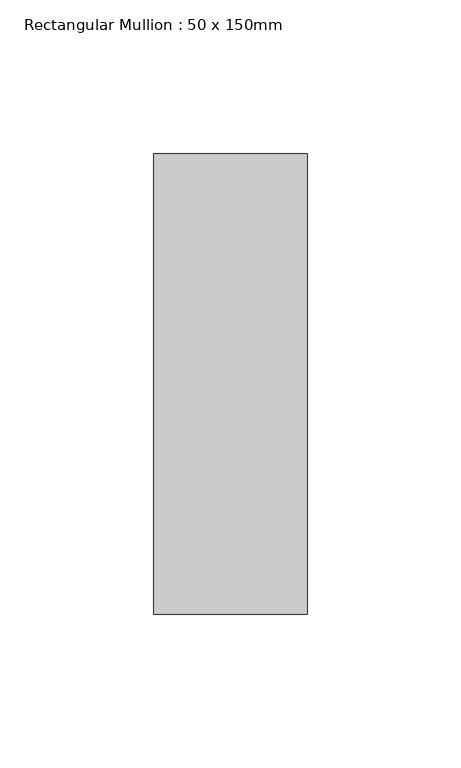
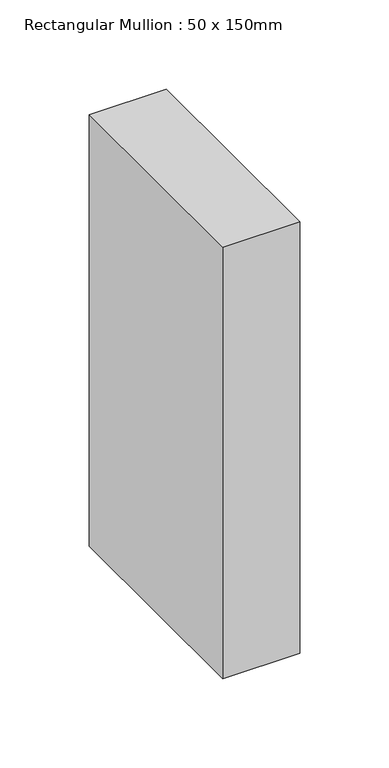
"""IFC4 building model written with IfcOpenShell, lengths in millimetres: member geometry, Rectangular Mullion : 50 x 150mm."""

from ifc_helpers import new_model, si_unit, frame, origin, place, context, project, spatial, polyline, outline, extrude, source, transform, mapped, element, save


def rectangular_mullion_50_x_150mm_5546df2b(model_context):
    return source(origin(), model_context, "Body", "SweptSolid", [
        extrude(outline(polyline([(25.0, 75.0), (25.0, -75.0), (-25.0, -75.0), (-25.0, 75.0), (25.0, 75.0)])), frame((0.0, 0.0, -296.1350516), z_axis=(0.0, 0.0, 1.0), x_axis=(1.0, 0.0, 0.0)), (0.0, 0.0, 1.0), 296.1350516),
    ])


if __name__ == "__main__":
    model = new_model("IFC4")
    model_context = context("Model", 3, world=origin())
    ifc_project = project(units=[si_unit("LENGTHUNIT", "METRE", prefix="MILLI")], contexts=[model_context])
    site = spatial("IfcSite", under=ifc_project)
    building = spatial("IfcBuilding", under=site)
    placement = place(None, origin())
    rectangular_mullion_50_x_150mm_shape = rectangular_mullion_50_x_150mm_5546df2b(model_context)
    element("IfcMember", 1, ObjectType="Rectangular Mullion : 50 x 150mm", at=placement, inside=building, context=model_context, shape_type="MappedRepresentation", body=[
        mapped(rectangular_mullion_50_x_150mm_shape, transform((0.0, 0.0, 0.0), x_axis=(1.0, 0.0, 0.0), y_axis=(0.0, 1.0, 0.0), z_axis=(0.0, 0.0, 1.0))),
    ])
    save(model, "model.ifc")
